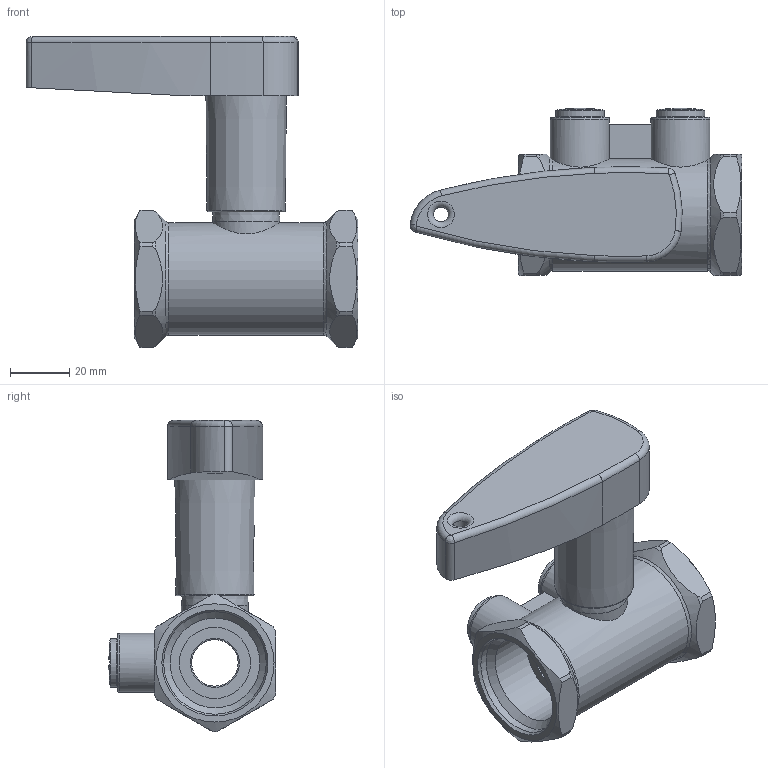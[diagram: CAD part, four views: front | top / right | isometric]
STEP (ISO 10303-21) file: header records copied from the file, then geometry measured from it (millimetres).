
FILE_DESCRIPTION(/* description */ (''),/* implementation_level */ '2;1');
FILE_NAME(/* name */ '\\dataserver\data\Nexus Valves\Inventor\2021_NexusValves Cad\3_Relax\nexus_relax_dn25.stp',/* time_stamp */ '2021-09-03T11:22:22+02:00',/* author */ ('kasius'),/* organization */ (''),/* preprocessor_version */ 'ST-DEVELOPER v17',/* originating_system */ 'Autodesk Inventor 2018',/* authorisation */ '');
FILE_SCHEMA (('AUTOMOTIVE_DESIGN { 1 0 10303 214 3 1 1 }'));
Length unit declared in the file: millimetre
Products named in the file (1): nexus_vertex_dn25
Bounding box: 112.22 x 56.5 x 105.21 mm (x, y, z)
Volume: 131995.4 mm3; surface area: 33067.8 mm2
Topology: 3 solids, 3 shells, 135 faces, 388 edges, 269 vertices
Faces by surface type: cylinder 41, plane 40, cone 29, torus 17, bspline 8
Full cylindrical faces by diameter (mm): 4.995 x1, 15.7 x1, 16.5 x3, 17 x3, 20 x2, 22.711 x1, 24.063 x1, 24.8 x1, 30.3 x2, 34.7 x2
Entity records: 5013 total; most frequent: CARTESIAN_POINT 1430, ORIENTED_EDGE 776, DIRECTION 766, EDGE_CURVE 388, AXIS2_PLACEMENT_3D 349, VERTEX_POINT 269, CIRCLE 216, EDGE_LOOP 149
